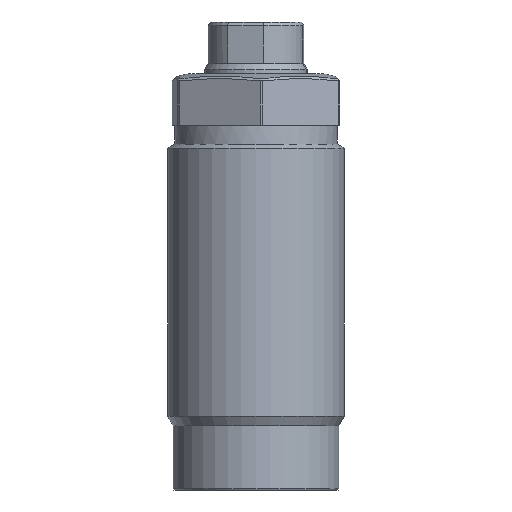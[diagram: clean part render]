
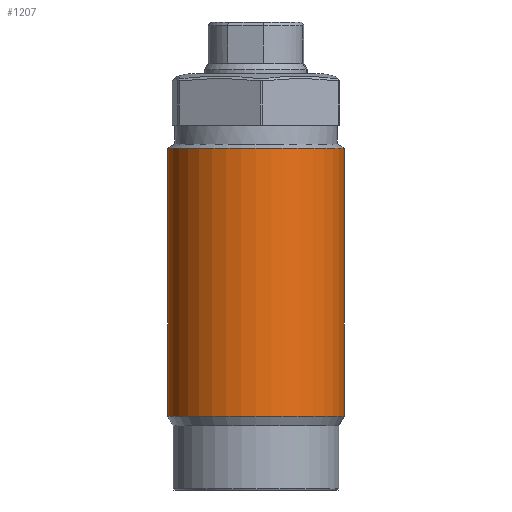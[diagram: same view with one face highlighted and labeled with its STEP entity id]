
A CAD part, front view. The second image highlights one B-rep face of the part: STEP entity #1207.
In plain terms, the highlighted cylindrical face has radius 12 mm (diameter 24 mm), a partial arc.
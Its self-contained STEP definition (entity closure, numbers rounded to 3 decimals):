
#28 = ORIENTED_EDGE ( 'NONE', *, *, #2484, .T. ) ;
#29 = ORIENTED_EDGE ( 'NONE', *, *, #1570, .T. ) ;
#75 = CARTESIAN_POINT ( 'NONE',  ( 0., 0., 10. ) ) ;
#76 = ORIENTED_EDGE ( 'NONE', *, *, #2125, .T. ) ;
#84 = CARTESIAN_POINT ( 'NONE',  ( -12., 0., 46.345 ) ) ;
#131 = VECTOR ( 'NONE', #1807, 1000. ) ;
#192 = AXIS2_PLACEMENT_3D ( 'NONE', #75, #1237, #1010 ) ;
#318 = LINE ( 'NONE', #1760, #1711 ) ;
#593 = CARTESIAN_POINT ( 'NONE',  ( -12., 0., 10. ) ) ;
#748 = AXIS2_PLACEMENT_3D ( 'NONE', #2648, #2418, #2621 ) ;
#813 = VERTEX_POINT ( 'NONE', #852 ) ;
#852 = CARTESIAN_POINT ( 'NONE',  ( 12., 0., 10. ) ) ;
#862 = CARTESIAN_POINT ( 'NONE',  ( -12., 0., 49.5 ) ) ;
#889 = VERTEX_POINT ( 'NONE', #2963 ) ;
#1010 = DIRECTION ( 'NONE',  ( -1., 0., 0. ) ) ;
#1045 = DIRECTION ( 'NONE',  ( 0., 0., -1. ) ) ;
#1070 = DIRECTION ( 'NONE',  ( 0., 0., -1. ) ) ;
#1092 = LINE ( 'NONE', #862, #131 ) ;
#1207 = ADVANCED_FACE ( 'NONE', ( #1944 ), #1928, .T. ) ;
#1237 = DIRECTION ( 'NONE',  ( 0., 0., 1. ) ) ;
#1287 = ORIENTED_EDGE ( 'NONE', *, *, #2031, .F. ) ;
#1455 = AXIS2_PLACEMENT_3D ( 'NONE', #2048, #1070, #1512 ) ;
#1512 = DIRECTION ( 'NONE',  ( -1., 0., 0. ) ) ;
#1570 = EDGE_CURVE ( 'NONE', #2220, #813, #1816, .T. ) ;
#1711 = VECTOR ( 'NONE', #1045, 1000. ) ;
#1760 = CARTESIAN_POINT ( 'NONE',  ( 12., 0., 49.5 ) ) ;
#1807 = DIRECTION ( 'NONE',  ( 0., 0., -1. ) ) ;
#1816 = CIRCLE ( 'NONE', #192, 12. ) ;
#1928 = CYLINDRICAL_SURFACE ( 'NONE', #748, 12. ) ;
#1944 = FACE_OUTER_BOUND ( 'NONE', #2465, .T. ) ;
#2031 = EDGE_CURVE ( 'NONE', #889, #813, #318, .T. ) ;
#2048 = CARTESIAN_POINT ( 'NONE',  ( 0., 0., 46.345 ) ) ;
#2125 = EDGE_CURVE ( 'NONE', #2801, #2220, #1092, .T. ) ;
#2220 = VERTEX_POINT ( 'NONE', #593 ) ;
#2418 = DIRECTION ( 'NONE',  ( 0., 0., -1. ) ) ;
#2465 = EDGE_LOOP ( 'NONE', ( #1287, #28, #76, #29 ) ) ;
#2484 = EDGE_CURVE ( 'NONE', #889, #2801, #2787, .T. ) ;
#2621 = DIRECTION ( 'NONE',  ( -1., 0., 0. ) ) ;
#2648 = CARTESIAN_POINT ( 'NONE',  ( 0., 0., 49.5 ) ) ;
#2787 = CIRCLE ( 'NONE', #1455, 12. ) ;
#2801 = VERTEX_POINT ( 'NONE', #84 ) ;
#2963 = CARTESIAN_POINT ( 'NONE',  ( 12., 0., 46.345 ) ) ;
